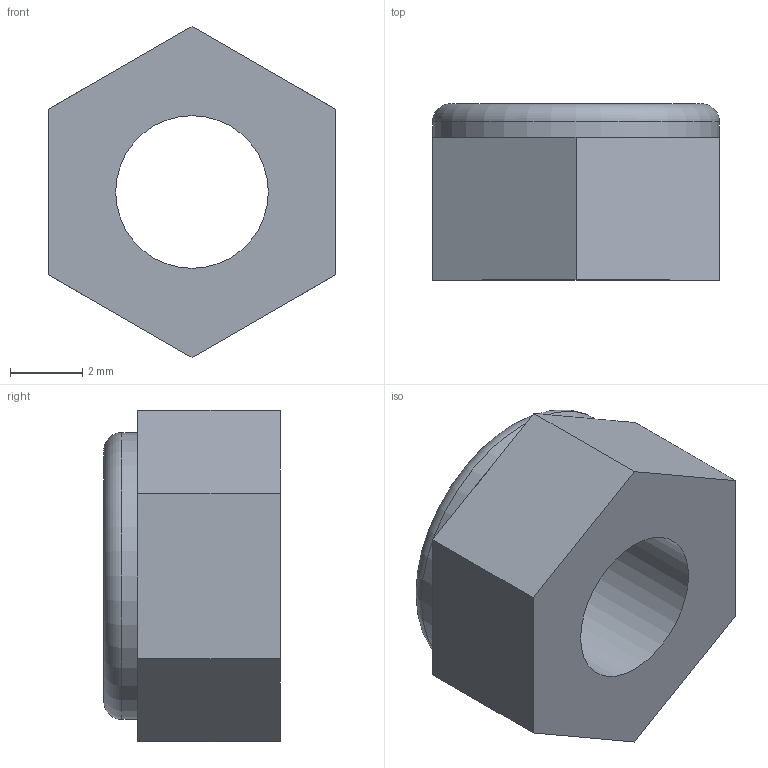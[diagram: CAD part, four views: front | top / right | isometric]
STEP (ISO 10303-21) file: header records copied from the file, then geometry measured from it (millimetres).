
FILE_DESCRIPTION(/* description */ ('STEP AP242 Edition 2','CAx-IF Rec.Pracs.---Representation and Presentation of Product Manufacturing Information (PMI)---4.0---2014-10-13','CAx-IF Rec.Pracs.---3D Tessellated Geometry---0.4---2014-09-14','2;1','CAx-IF Rec.Pracs.---User Defined Attributes---1.5---2016-08-15'),/* implementation_level */ '2;1');
FILE_NAME(/* name */ '56ea5ff9-82cb-453e-aa75-67b4fa7cecff',/* time_stamp */ '2026-02-04T12:55:11Z',/* author */ (''),/* organization */ (''),/* preprocessor_version */ 'ST-DEVELOPER v20',/* originating_system */ 'ONSHAPE BY PTC INC, 1.210',/* authorisation */ ' ');
FILE_SCHEMA (('AP242_MANAGED_MODEL_BASED_3D_ENGINEERING_MIM_LF { 1 0 10303 442 3 1 4 }'));
Length unit declared in the file: metre
Products named in the file (1): l�se_mutter
Bounding box: 7.93 x 4.88 x 9.16 mm (x, y, z)
Volume: 191.4 mm3; surface area: 271.8 mm2
Topology: 1 solids, 1 shells, 17 faces, 39 edges, 24 vertices
Faces by surface type: plane 14, cylinder 2, torus 1
Full cylindrical faces by diameter (mm): 4.22 x1, 7.93 x1
Entity records: 468 total; most frequent: DIRECTION 80, CARTESIAN_POINT 74, ORIENTED_EDGE 68, EDGE_CURVE 34, AXIS2_PLACEMENT_3D 28, LINE 24, VECTOR 24, VERTEX_POINT 22
